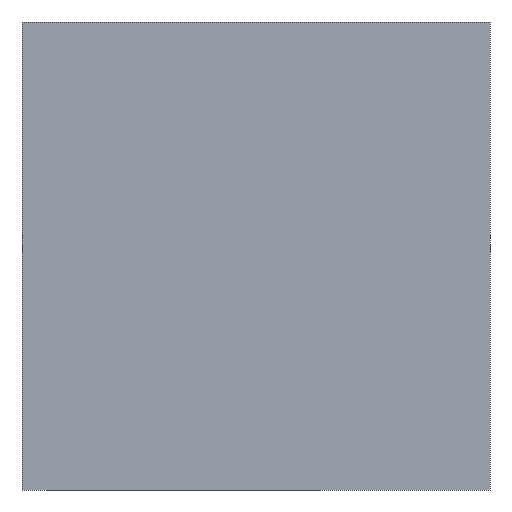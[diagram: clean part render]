
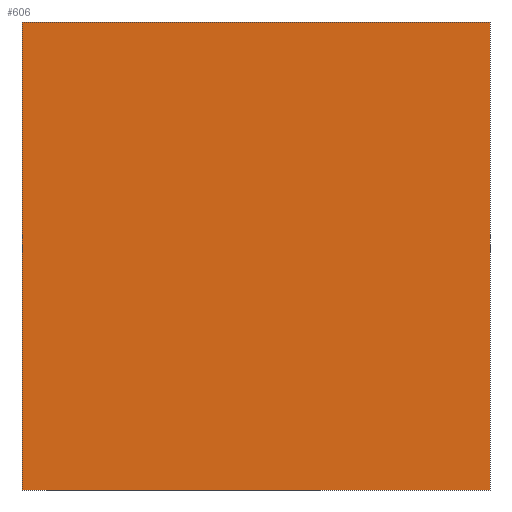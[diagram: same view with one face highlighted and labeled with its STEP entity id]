
A CAD part, front view. The second image highlights one B-rep face of the part: STEP entity #606.
In plain terms, the highlighted planar face has unit normal (0, -1, 0).
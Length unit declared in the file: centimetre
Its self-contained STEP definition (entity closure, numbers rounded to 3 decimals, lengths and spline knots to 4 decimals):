
#51 = ORIENTED_EDGE ( 'NONE', *, *, #70, .F. ) ;
#70 = EDGE_CURVE ( 'NONE', #398, #109, #374, .T. ) ;
#73 = CARTESIAN_POINT ( 'NONE',  ( 0., 0., 1000. ) ) ;
#88 = VECTOR ( 'NONE', #287, 100. ) ;
#109 = VERTEX_POINT ( 'NONE', #493 ) ;
#118 = VERTEX_POINT ( 'NONE', #137 ) ;
#126 = FACE_OUTER_BOUND ( 'NONE', #750, .T. ) ;
#137 = CARTESIAN_POINT ( 'NONE',  ( 1000., 0., 0. ) ) ;
#145 = EDGE_CURVE ( 'NONE', #398, #633, #497, .T. ) ;
#153 = LINE ( 'NONE', #222, #491 ) ;
#168 = CARTESIAN_POINT ( 'NONE',  ( 1000., 0., 1000. ) ) ;
#190 = CARTESIAN_POINT ( 'NONE',  ( 0., 0., 1000. ) ) ;
#222 = CARTESIAN_POINT ( 'NONE',  ( 0., 0., 0. ) ) ;
#232 = EDGE_CURVE ( 'NONE', #633, #118, #153, .T. ) ;
#238 = PLANE ( 'NONE',  #479 ) ;
#242 = DIRECTION ( 'NONE',  ( 0., 0., 1. ) ) ;
#265 = ORIENTED_EDGE ( 'NONE', *, *, #145, .T. ) ;
#283 = LINE ( 'NONE', #168, #88 ) ;
#287 = DIRECTION ( 'NONE',  ( 0., 0., -1. ) ) ;
#300 = CARTESIAN_POINT ( 'NONE',  ( 0., 0., 0. ) ) ;
#366 = DIRECTION ( 'NONE',  ( 0., 0., -1. ) ) ;
#374 = LINE ( 'NONE', #73, #697 ) ;
#398 = VERTEX_POINT ( 'NONE', #190 ) ;
#430 = VECTOR ( 'NONE', #366, 100. ) ;
#479 = AXIS2_PLACEMENT_3D ( 'NONE', #593, #525, #242 ) ;
#491 = VECTOR ( 'NONE', #617, 100. ) ;
#493 = CARTESIAN_POINT ( 'NONE',  ( 1000., 0., 1000. ) ) ;
#497 = LINE ( 'NONE', #715, #430 ) ;
#518 = EDGE_CURVE ( 'NONE', #109, #118, #283, .T. ) ;
#525 = DIRECTION ( 'NONE',  ( 0., 1., 0. ) ) ;
#593 = CARTESIAN_POINT ( 'NONE',  ( 0., 0., 1000. ) ) ;
#606 = ADVANCED_FACE ( 'NONE', ( #126 ), #238, .F. ) ;
#617 = DIRECTION ( 'NONE',  ( 1., 0., 0. ) ) ;
#633 = VERTEX_POINT ( 'NONE', #300 ) ;
#685 = ORIENTED_EDGE ( 'NONE', *, *, #518, .F. ) ;
#697 = VECTOR ( 'NONE', #720, 100. ) ;
#715 = CARTESIAN_POINT ( 'NONE',  ( 0., 0., 1000. ) ) ;
#720 = DIRECTION ( 'NONE',  ( 1., 0., 0. ) ) ;
#750 = EDGE_LOOP ( 'NONE', ( #760, #685, #51, #265 ) ) ;
#760 = ORIENTED_EDGE ( 'NONE', *, *, #232, .T. ) ;
